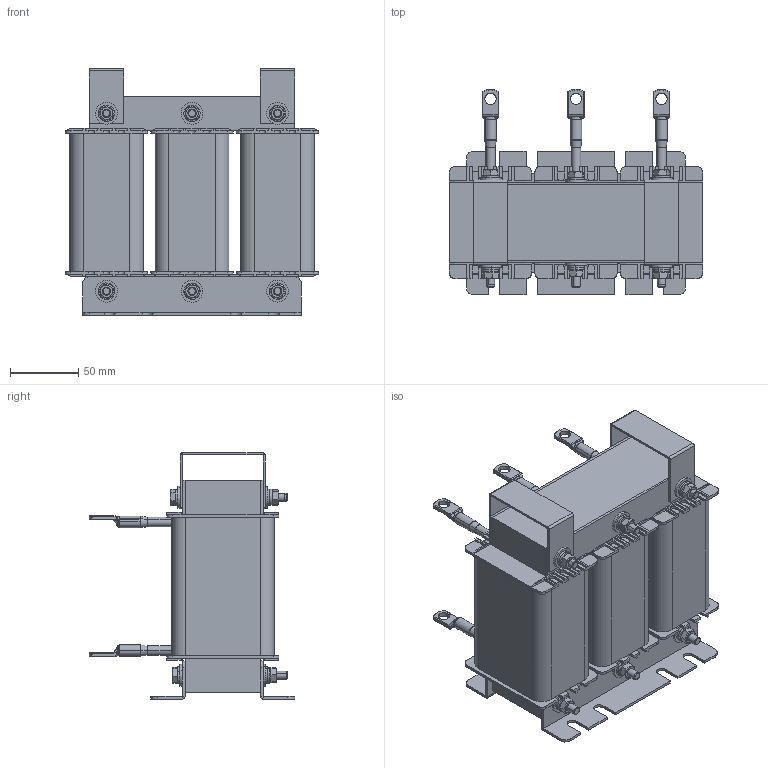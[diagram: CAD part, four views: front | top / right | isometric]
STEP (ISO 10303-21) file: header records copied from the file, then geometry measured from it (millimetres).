
FILE_DESCRIPTION (( 'STEP AP203' ), '1' );
FILE_NAME ('Ñåòåâîé äðîññåëü _ ISF-37_76-4.STEP', '2025-07-11T08:04:42', ( '' ), ( '' ), 'SwSTEP 2.0', 'SolidWorks 2021', '' );
FILE_SCHEMA (( 'CONFIG_CONTROL_DESIGN' ));
Length unit declared in the file: millimetre
Products named in the file (15): 侲膰翴籦鴀_22-45; Ñêîáà òàêåëàæíàÿ_37; Áîëò DIN 933_Œ6å80; Ïëàñòèíà ïðèæèìíàÿ_22-45; 栫謱毿膻獥37; Èçîëÿòîð êàòóøêè_37; Ñåòåâîé äðîññåëü _ ISF-37_76-4; 忺覷齆趌37; Øàéáà ïëîñêàÿ DIN 9021_Œ6; Øàéáà ïëîñêàÿ DIN 125 (A)_Œ6; Ãàéêà DIN 934_Œ6; Êàòóøêà ñ âûâîäàìè_37; 咈櫡_22-45; Øàéáà ïðóæèííàÿ DIN 127 (A)_Œ6; Âûâîä êàòóøêè_37
Assembly tree (63 placements, depth 3):
  Ñåòåâîé äðîññåëü _ ISF-37_76-4
    咈櫡_22-45  x2
    Èçîëÿòîð êàòóøêè_37  x6
    Êàòóøêà ñ âûâîäàìè_37  x3
      忺覷齆趌37
      Âûâîä êàòóøêè_37
      侲膰翴籦鴀_22-45
    Ïëàñòèíà ïðèæèìíàÿ_22-45  x2
    Ñêîáà òàêåëàæíàÿ_37  x2
    栫謱毿膻獥37
    Øàéáà ïëîñêàÿ DIN 9021_Œ6  x12
    Øàéáà ïëîñêàÿ DIN 125 (A)_Œ6  x12
    Øàéáà ïðóæèííàÿ DIN 127 (A)_Œ6  x6
    Ãàéêà DIN 934_Œ6  x6
    Áîëò DIN 933_Œ6å80  x6
Bounding box: 185 x 150 x 180 mm (x, y, z)
Volume: 1753347.6 mm3; surface area: 391950.8 mm2
Topology: 70 solids, 70 shells, 1700 faces, 4098 edges, 2520 vertices
Faces by surface type: plane 872, cylinder 480, cone 198, bspline 84, torus 42, sphere 24
Entity records: 14338 total; most frequent: CARTESIAN_POINT 3039, DIRECTION 1808, ORIENTED_EDGE 1686, EDGE_CURVE 843, AXIS2_PLACEMENT_3D 639, VECTOR 530, LINE 530, VERTEX_POINT 528
